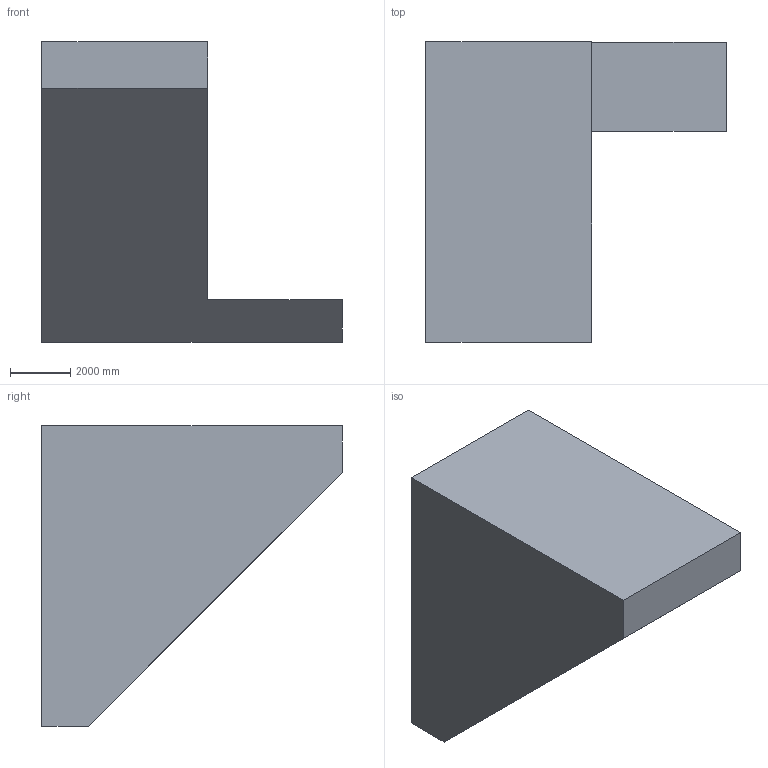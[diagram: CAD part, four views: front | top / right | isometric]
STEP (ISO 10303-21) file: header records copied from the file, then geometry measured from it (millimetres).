
FILE_DESCRIPTION (( 'STEP AP203' ), '1' );
FILE_NAME ('26.STEP', '2022-07-28T13:26:16', ( 'user' ), ( '' ), 'SwSTEP 2.0', 'SolidWorks 2021', '' );
FILE_SCHEMA (( 'CONFIG_CONTROL_DESIGN' ));
Length unit declared in the file: centimetre
Products named in the file (1): 26
Bounding box: 10000 x 10000 x 10000 mm (x, y, z)
Volume: 369472290427.8 mm3; surface area: 357743140.2 mm2
Topology: 1 solids, 1 shells, 9 faces, 21 edges, 14 vertices
Faces by surface type: plane 9
Entity records: 332 total; most frequent: CARTESIAN_POINT 45, ORIENTED_EDGE 42, DIRECTION 41, LINE 21, VECTOR 21, EDGE_CURVE 21, VERTEX_POINT 14, AXIS2_PLACEMENT_3D 10
